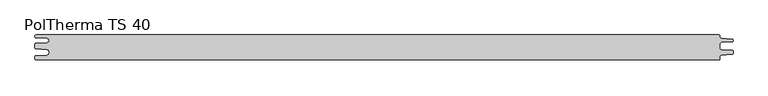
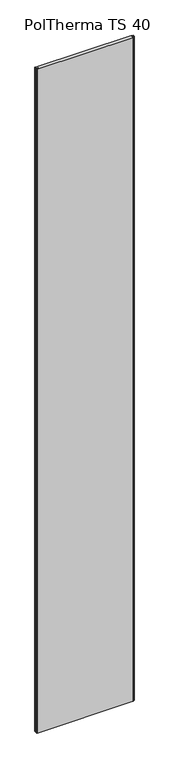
"""IFC4 building model written with IfcOpenShell, lengths in millimetres: plate geometry, Europanels_Poltherma TS_Vt : PolTherma TS 40."""

import ifcopenshell
import ifcopenshell.guid

model = None  # the IFC model being written
_history = None  # IfcOwnerHistory: only IFC2X3 demands one
_inside = {}  # id of a spatial element -> (the spatial element, [elements in it])
_under = {}  # id of a project, library or spatial element -> (it, [spatial elements below it])
_declared = {}  # id of a project -> (the project, [libraries it declares])
_typed = {}  # id of a type object -> (the type object, [elements of that type])
_made_of = {}  # id of a material, layer set ... -> (it, [elements and type objects made of it])


def new_model(schema):
    """Start an empty IFC model of exactly this schema.

    Asked for "IFC4X3", IfcOpenShell would pick the latest addendum, in which some entities
    have other attributes; the version numbers below select the first issue.
    IFC2X3 requires an IfcOwnerHistory on every rooted entity: one is made here for all.
    """
    global model, _history
    if schema == "IFC4X3":
        model = ifcopenshell.file(schema_version=(4, 3, 0, 0))
    else:
        model = ifcopenshell.file(schema=schema)
    _inside.clear()
    _under.clear()
    _declared.clear()
    _typed.clear()
    _made_of.clear()
    _history = None
    if model.schema == "IFC2X3":
        org = make("IfcOrganization", Name="unknown")
        user = make(
            "IfcPersonAndOrganization",
            ThePerson=make("IfcPerson", FamilyName="unknown"),
            TheOrganization=org,
        )
        app = make(
            "IfcApplication",
            ApplicationDeveloper=org,
            Version="unknown",
            ApplicationFullName="unknown",
            ApplicationIdentifier="unknown",
        )
        _history = make(
            "IfcOwnerHistory",
            OwningUser=user,
            OwningApplication=app,
            ChangeAction="ADDED",
            CreationDate=0,
        )
    return model


def make(cls, **values):
    """One entity of the class cls with the attributes given. An attribute that is None is left unset."""
    return model.create_entity(
        cls, **{name: value for name, value in values.items() if value is not None}
    )


def rooted(cls, **values):
    """An entity with a GlobalId (a new one), such as an element, a storey or a relation."""
    return make(cls, GlobalId=ifcopenshell.guid.new(), OwnerHistory=_history, **values)


def si_unit(unit_type, name, prefix=None):
    """IfcSIUnit, for example si_unit("LENGTHUNIT", "METRE", prefix="MILLI")."""
    return make("IfcSIUnit", UnitType=unit_type, Prefix=prefix, Name=name)


def assignment(units):
    """IfcUnitAssignment: the units of a project."""
    return None if units is None else make("IfcUnitAssignment", Units=units)


def point(xyz):
    """IfcCartesianPoint."""
    return None if xyz is None else make("IfcCartesianPoint", Coordinates=xyz)


def direction(xyz):
    """IfcDirection."""
    return None if xyz is None else make("IfcDirection", DirectionRatios=xyz)


def frame(location, z_axis=None, x_axis=None):
    """IfcAxis2Placement3D, a coordinate frame: its origin and axes. An axis left out is left unset."""
    return make(
        "IfcAxis2Placement3D",
        Location=point(location),
        Axis=direction(z_axis),
        RefDirection=direction(x_axis),
    )


def frame_2d(location, x_axis=None):
    """IfcAxis2Placement2D, a coordinate frame in the plane: its origin and x axis."""
    return make(
        "IfcAxis2Placement2D", Location=point(location), RefDirection=direction(x_axis)
    )


def origin():
    """The frame at (0, 0, 0) with its axes left unset."""
    return frame((0.0, 0.0, 0.0))


def origin_with_axes():
    """The frame at (0, 0, 0) with the z axis (0, 0, 1) and the x axis (1, 0, 0) written out."""
    return frame((0.0, 0.0, 0.0), z_axis=(0.0, 0.0, 1.0), x_axis=(1.0, 0.0, 0.0))


def place(relative_to, where):
    """IfcLocalPlacement: puts the frame where relative to a parent placement (None: the world)."""
    return make(
        "IfcLocalPlacement", PlacementRelTo=relative_to, RelativePlacement=where
    )


def context(
    kind, dimensions, precision=None, world=None, true_north=None, identifier=None
):
    """IfcGeometricRepresentationContext, for example the 3D "Model" context."""
    return make(
        "IfcGeometricRepresentationContext",
        ContextIdentifier=identifier,
        ContextType=kind,
        CoordinateSpaceDimension=dimensions,
        Precision=precision,
        WorldCoordinateSystem=world,
        TrueNorth=true_north,
    )


def project(units=None, contexts=None):
    """IfcProject with its units and contexts."""
    return rooted(
        "IfcProject",
        Name="project",
        RepresentationContexts=contexts,
        UnitsInContext=assignment(units),
    )


def spatial(cls, under=None, at=None, **own):
    """A site, building, storey or space (cls), placed at a placement, below another one or the project."""
    s = rooted(cls, ObjectPlacement=at, **own)
    if under is not None:
        _under.setdefault(under.id(), (under, []))[1].append(s)
    return s


def polyline(points):
    """IfcPolyline through the points."""
    return make("IfcPolyline", Points=[point(p) for p in points])


def circle_curve(where, radius):
    """IfcCircle in the frame where."""
    return make("IfcCircle", Position=where, Radius=radius)


def trimmed(basis, trim1, trim2, sense, master):
    """IfcTrimmedCurve: the piece of a basis curve between two trims."""
    return make(
        "IfcTrimmedCurve",
        BasisCurve=basis,
        Trim1=trim1,
        Trim2=trim2,
        SenseAgreement=sense,
        MasterRepresentation=master,
    )


def segment(curve, same_sense, transition):
    """IfcCompositeCurveSegment."""
    return make(
        "IfcCompositeCurveSegment",
        Transition=transition,
        SameSense=same_sense,
        ParentCurve=curve,
    )


def composite_curve(segments, self_intersect=None):
    """IfcCompositeCurve: segments joined end to end."""
    return make("IfcCompositeCurve", Segments=segments, SelfIntersect=self_intersect)


def outline(outer, holes=None, kind="AREA"):
    """IfcArbitraryClosedProfileDef: a profile drawn as a closed curve; with holes, ...WithVoids."""
    if holes is None:
        return make("IfcArbitraryClosedProfileDef", ProfileType=kind, OuterCurve=outer)
    return make(
        "IfcArbitraryProfileDefWithVoids",
        ProfileType=kind,
        OuterCurve=outer,
        InnerCurves=holes,
    )


def extrude(swept, where, along, depth):
    """IfcExtrudedAreaSolid: the profile swept, set in the frame where, extruded along a direction by depth."""
    return make(
        "IfcExtrudedAreaSolid",
        SweptArea=swept,
        Position=where,
        ExtrudedDirection=direction(along),
        Depth=depth,
    )


def shape(context_of_items, identifier, shape_type, items):
    """IfcShapeRepresentation: the items that make up one representation, for example the "Body"."""
    return make(
        "IfcShapeRepresentation",
        ContextOfItems=context_of_items,
        RepresentationIdentifier=identifier,
        RepresentationType=shape_type,
        Items=items,
    )


def source(mapping_origin, context_of_items, identifier, shape_type, items):
    """IfcRepresentationMap: a shape defined once, which mapped items show again and again."""
    return make(
        "IfcRepresentationMap",
        MappingOrigin=mapping_origin,
        MappedRepresentation=shape(context_of_items, identifier, shape_type, items),
    )


def transform(
    local_origin,
    x_axis=None,
    y_axis=None,
    z_axis=None,
    scale=None,
    scale2=None,
    scale3=None,
    uniform=True,
):
    """IfcCartesianTransformationOperator3D, or its non-uniform kind. x_axis, y_axis, z_axis: its Axis1, 2, 3."""
    if uniform:
        return make(
            "IfcCartesianTransformationOperator3D",
            Axis1=direction(x_axis),
            Axis2=direction(y_axis),
            LocalOrigin=point(local_origin),
            Scale=scale,
            Axis3=direction(z_axis),
        )
    return make(
        "IfcCartesianTransformationOperator3DnonUniform",
        Axis1=direction(x_axis),
        Axis2=direction(y_axis),
        LocalOrigin=point(local_origin),
        Scale=scale,
        Axis3=direction(z_axis),
        Scale2=scale2,
        Scale3=scale3,
    )


def mapped(mapping_source, mapping_target):
    """IfcMappedItem: shows the shape of a source again, moved by a transform."""
    return make(
        "IfcMappedItem", MappingSource=mapping_source, MappingTarget=mapping_target
    )


def made_of(thing, what):
    """Note that an element or type object is made of a material, layer set ...; save() writes the relation."""
    if what is not None:
        _made_of.setdefault(what.id(), (what, []))[1].append(thing)
    return thing


def element(
    cls,
    number,
    at=None,
    inside=None,
    cuts=None,
    type_object=None,
    material=None,
    context=None,
    identifier="Body",
    shape_type=None,
    held_by="IfcProductDefinitionShape",
    body=None,
    shapes=None,
    **own,
):
    """One element of the class cls, such as IfcWall. Its Tag is "e" and its number.

    at: its placement. inside: the storey or other place that contains it. cuts: it is an
    opening in that element (IfcRelVoidsElement). A single representation is given by context,
    identifier, shape_type and body (its items); several are given by shapes. held_by: the class
    of the entity that holds the representations. save() writes the other relations.
    """
    e = rooted(cls, Tag="e%d" % number, ObjectPlacement=at, **own)
    if body is not None:
        shapes = [shape(context, identifier, shape_type, body)]
    if shapes is not None:
        e.Representation = make(held_by, Representations=shapes)
    if inside is not None:
        _inside.setdefault(inside.id(), (inside, []))[1].append(e)
    if cuts is not None:
        rooted(
            "IfcRelVoidsElement", RelatingBuildingElement=cuts, RelatedOpeningElement=e
        )
    if type_object is not None:
        _typed.setdefault(type_object.id(), (type_object, []))[1].append(e)
    return made_of(e, material)


def aggregate(whole, parts):
    """IfcRelAggregates: a whole, such as a stair, and the parts it consists of."""
    return rooted("IfcRelAggregates", RelatingObject=whole, RelatedObjects=parts)


def save(model, path):
    """Write the relations noted so far, then the file.

    IfcRelAggregates (storeys below a building ...), IfcRelContainedInSpatialStructure (elements
    in a storey), IfcRelDefinesByType, IfcRelAssociatesMaterial and IfcRelDeclares: one each for
    every whole, place, type object, material and project.
    """
    for whole, parts in _under.values():
        aggregate(whole, parts)
    for where, things in _inside.values():
        rooted(
            "IfcRelContainedInSpatialStructure",
            RelatedElements=things,
            RelatingStructure=where,
        )
    for kind, things in _typed.values():
        rooted("IfcRelDefinesByType", RelatedObjects=things, RelatingType=kind)
    for what, things in _made_of.values():
        rooted("IfcRelAssociatesMaterial", RelatedObjects=things, RelatingMaterial=what)
    for by, libraries in _declared.values():
        rooted("IfcRelDeclares", RelatingContext=by, RelatedDefinitions=libraries)
    model.write(path)


def poltherma_ts_40_b35252ce(model_context):
    return source(origin(), model_context, "Body", "SweptSolid", [
        extrude(outline(composite_curve([segment(trimmed(circle_curve(frame_2d((-546.2333097, 17.6345607)), 2.3654393), [point((-546.3610953, 15.2725755))], [point((-546.2333097, 20.0))], False, "CARTESIAN"), True, "CONTINUOUS"), segment(polyline([(-546.2333097, 20.0), (546.5011047, 20.0)]), True, "CONTINUOUS"), segment(trimmed(circle_curve(frame_2d((546.5011047, 18.0)), 2.0), [point((546.5011047, 20.0))], [point((548.5011047, 18.0))], False, "CARTESIAN"), True, "CONTINUOUS"), segment(polyline([(548.5011047, 18.0), (548.5011047, 16.2557869)]), True, "CONTINUOUS"), segment(trimmed(circle_curve(frame_2d((550.5011047, 16.2557869)), 2.0), [point((548.5011047, 16.2557869))], [point((550.3765791, 14.2596673))], True, "CARTESIAN"), True, "CONTINUOUS"), segment(polyline([(550.3765791, 14.2596673), (567.4253644, 13.1960991)]), True, "CONTINUOUS"), segment(trimmed(circle_curve(frame_2d((567.289593, 11.0197097)), 2.1806202), [point((567.4253644, 13.1960991))], [point((567.3831997, 8.8410996))], False, "CARTESIAN"), True, "CONTINUOUS"), segment(polyline([(567.3831997, 8.8410996), (550.4152514, 8.1120505)]), True, "CONTINUOUS"), segment(trimmed(circle_curve(frame_2d((550.5011047, 6.113894)), 2.0), [point((550.4152514, 8.1120505))], [point((548.5011047, 6.113894))], True, "CARTESIAN"), True, "CONTINUOUS"), segment(polyline([(548.5011047, 6.113894), (548.5011047, -1.9117672)]), True, "CONTINUOUS"), segment(trimmed(circle_curve(frame_2d((550.3011047, -1.9117672)), 1.8), [point((548.5011047, -1.9117672))], [point((550.2244834, -3.7101357))], True, "CARTESIAN"), True, "CONTINUOUS"), segment(polyline([(550.2244834, -3.7101357), (567.5862394, -4.4498501)]), True, "CONTINUOUS"), segment(trimmed(circle_curve(frame_2d((567.5011047, -6.4480373)), 2.0), [point((567.5862394, -4.4498501))], [point((569.5011047, -6.4480373))], False, "CARTESIAN"), True, "CONTINUOUS"), segment(polyline([(569.5011047, -6.4480373), (569.5011047, -9.1874198)]), True, "CONTINUOUS"), segment(trimmed(circle_curve(frame_2d((567.5011047, -9.1874198)), 2.0), [point((569.5011047, -9.1874198))], [point((567.624345, -11.1836192))], False, "CARTESIAN"), True, "CONTINUOUS"), segment(polyline([(567.624345, -11.1836192), (550.3778643, -12.2483736)]), True, "CONTINUOUS"), segment(trimmed(circle_curve(frame_2d((550.5011047, -14.244573)), 2.0), [point((550.3778643, -12.2483736))], [point((548.5011047, -14.244573))], True, "CARTESIAN"), True, "CONTINUOUS"), segment(polyline([(548.5011047, -14.244573), (548.5011047, -18.0)]), True, "CONTINUOUS"), segment(trimmed(circle_curve(frame_2d((546.5011047, -18.0)), 2.0), [point((548.5011047, -18.0))], [point((546.5011047, -20.0))], False, "CARTESIAN"), True, "CONTINUOUS"), segment(polyline([(546.5011047, -20.0), (-546.5011047, -20.0)]), True, "CONTINUOUS"), segment(trimmed(circle_curve(frame_2d((-546.5011047, -18.0)), 2.0), [point((-546.5011047, -20.0))], [point((-548.5011047, -18.0))], False, "CARTESIAN"), True, "CONTINUOUS"), segment(polyline([(-548.5011047, -18.0), (-548.5011047, -15.2751521)]), True, "CONTINUOUS"), segment(trimmed(circle_curve(frame_2d((-546.5011047, -15.2751521)), 2.0), [point((-548.5011047, -15.2751521))], [point((-546.6091486, -13.2780726))], False, "CARTESIAN"), True, "CONTINUOUS"), segment(polyline([(-546.6091486, -13.2780726), (-528.8358621, -12.3165207)]), True, "CONTINUOUS"), segment(trimmed(circle_curve(frame_2d((-528.9979279, -9.3209015)), 3.0), [point((-528.8358621, -12.3165207))], [point((-525.9979279, -9.3209015))], True, "CARTESIAN"), True, "CONTINUOUS"), segment(polyline([(-525.9979279, -9.3209015), (-525.9979279, -6.3793238)]), True, "CONTINUOUS"), segment(trimmed(circle_curve(frame_2d((-528.9979279, -6.3793238)), 3.0), [point((-525.9979279, -6.3793238))], [point((-528.8252666, -3.3842966))], True, "CARTESIAN"), True, "CONTINUOUS"), segment(polyline([(-528.8252666, -3.3842966), (-546.8047015, -2.3477941)]), True, "CONTINUOUS"), segment(trimmed(circle_curve(frame_2d((-546.7011047, -0.5507777)), 1.8), [point((-546.8047015, -2.3477941))], [point((-548.5011047, -0.5507777))], False, "CARTESIAN"), True, "CONTINUOUS"), segment(polyline([(-548.5011047, -0.5507777), (-548.5011047, 4.9895357)]), True, "CONTINUOUS"), segment(trimmed(circle_curve(frame_2d((-546.7511047, 4.9895357)), 1.75), [point((-548.5011047, 4.9895357))], [point((-546.8518238, 6.7366349))], False, "CARTESIAN"), True, "CONTINUOUS"), segment(polyline([(-546.8518238, 6.7366349), (-528.9231671, 7.7702101)]), True, "CONTINUOUS"), segment(trimmed(circle_curve(frame_2d((-529.1122263, 11.0496782)), 3.2849132), [point((-528.9231671, 7.7702101))], [point((-528.9347688, 14.3297946))], True, "CARTESIAN"), True, "CONTINUOUS"), segment(polyline([(-528.9347688, 14.3297946), (-546.3610953, 15.2725755)]), True, "CONTINUOUS")], self_intersect=False)), origin_with_axes(), (0.0, 0.0, 1.0), 8000.0),
    ])


if __name__ == "__main__":
    model = new_model("IFC4")
    model_context = context("Model", 3, world=origin())
    ifc_project = project(units=[si_unit("LENGTHUNIT", "METRE", prefix="MILLI")], contexts=[model_context])
    site = spatial("IfcSite", under=ifc_project)
    building = spatial("IfcBuilding", under=site)
    placement = place(None, origin())
    poltherma_ts_40_shape = poltherma_ts_40_b35252ce(model_context)
    element("IfcPlate", 1, ObjectType="Europanels_Poltherma TS_Vt : PolTherma TS 40", at=placement, inside=building, context=model_context, shape_type="MappedRepresentation", body=[
        mapped(poltherma_ts_40_shape, transform((0.0, 0.0, 0.0), x_axis=(1.0, 0.0, 0.0), y_axis=(0.0, 1.0, 0.0), z_axis=(0.0, 0.0, 1.0))),
    ])
    save(model, "model.ifc")
